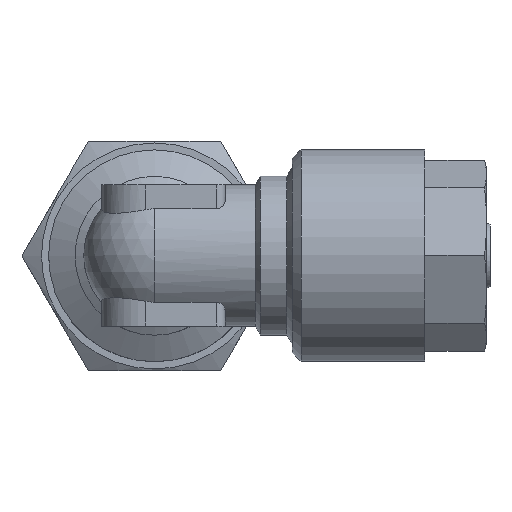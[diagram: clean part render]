
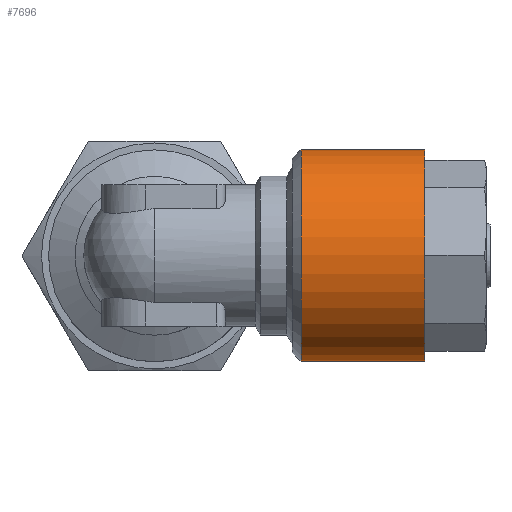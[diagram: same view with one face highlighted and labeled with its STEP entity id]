
A CAD part, top view. The second image highlights one B-rep face of the part: STEP entity #7696.
In plain terms, the highlighted cylindrical face has radius 6 mm (diameter 12 mm), a full revolution.
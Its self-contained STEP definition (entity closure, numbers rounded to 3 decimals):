
#1492=CYLINDRICAL_SURFACE('',#7465,6.);
#1615=ORIENTED_EDGE('',*,*,#2244,.F.);
#1616=ORIENTED_EDGE('',*,*,#2245,.T.);
#1960=CIRCLE('',#7464,6.);
#1961=CIRCLE('',#7466,6.);
#2074=VERTEX_POINT('',#4377);
#2075=VERTEX_POINT('',#4380);
#2244=EDGE_CURVE('',#2074,#2074,#1960,.T.);
#2245=EDGE_CURVE('',#2075,#2075,#1961,.T.);
#2438=EDGE_LOOP('',(#1615));
#2439=EDGE_LOOP('',(#1616));
#2615=FACE_BOUND('',#2438,.T.);
#2616=FACE_BOUND('',#2439,.T.);
#3826=DIRECTION('',(0.,1.,0.));
#3827=DIRECTION('',(0.,0.,-6.));
#3828=DIRECTION('',(0.,1.,0.));
#3829=DIRECTION('',(1.,0.,0.));
#3830=DIRECTION('',(0.,1.,0.));
#3831=DIRECTION('',(0.,0.,6.));
#4377=CARTESIAN_POINT('',(0.,7.5,-6.));
#4378=CARTESIAN_POINT('',(0.,7.5,0.));
#4379=CARTESIAN_POINT('',(0.,0.5,0.));
#4380=CARTESIAN_POINT('',(0.,0.5,6.));
#4381=CARTESIAN_POINT('',(0.,0.5,0.));
#7464=AXIS2_PLACEMENT_3D('',#4378,#3826,#3827);
#7465=AXIS2_PLACEMENT_3D('',#4379,#3828,#3829);
#7466=AXIS2_PLACEMENT_3D('',#4381,#3830,#3831);
#7696=ADVANCED_FACE('',(#2615,#2616),#1492,.T.);
